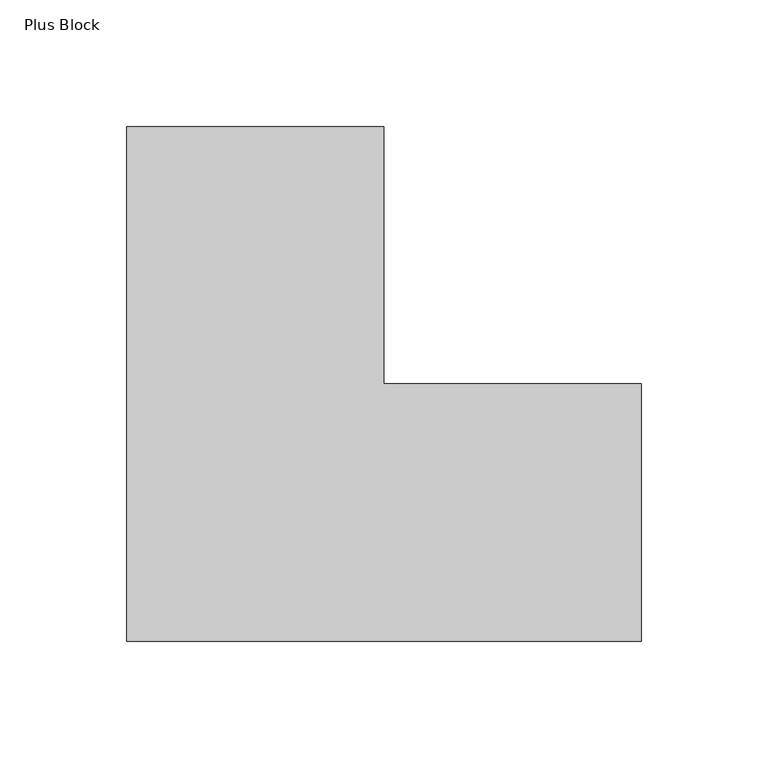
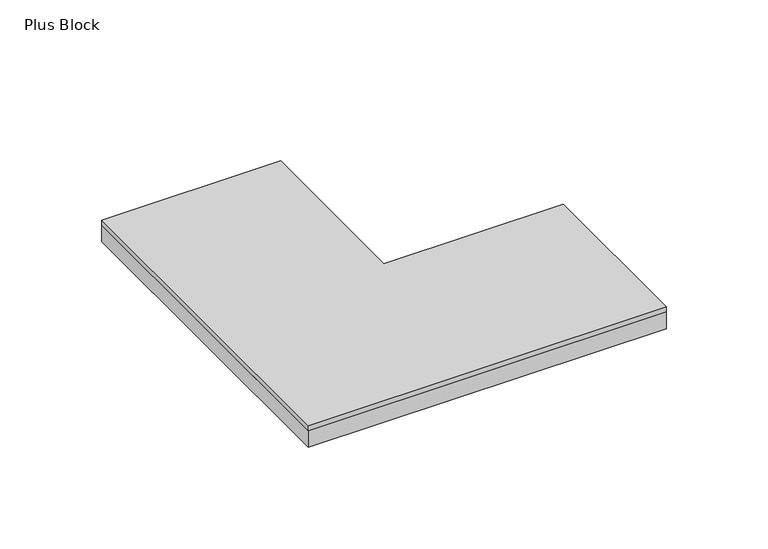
"""IFC4 building model written with IfcOpenShell, lengths in millimetres: proxy geometry, FilzFelt_Plus_Block : Plus Block."""

from ifc_helpers import new_model, si_unit, frame, origin, origin_with_axes, place, context, project, spatial, polyline, outline, extrude, source, transform, mapped, element, save


def plus_block_4f07b3c1(model_context):
    return source(origin(), model_context, "Body", "SweptSolid", [
        extrude(outline(polyline([(50.8333333, 50.8333333), (152.5, 50.8333333), (152.5, -50.8333333), (-50.8333333, -50.8333333), (-50.8333333, 152.5), (50.8333333, 152.5), (50.8333333, 50.8333333)])), frame((0.0, 0.0, 10.0210937), z_axis=(0.0, 0.0, 1.0), x_axis=(1.0, 0.0, 0.0)), (0.0, 0.0, 1.0), 2.9765625),
        extrude(outline(polyline([(-50.8333333, 152.5), (50.8333333, 152.5), (50.8333333, 50.8333333), (152.5, 50.8333333), (152.5, -50.8333333), (-50.8333333, -50.8333333), (-50.8333333, 152.5)])), origin_with_axes(), (0.0, 0.0, 1.0), 10.0210938),
    ])


if __name__ == "__main__":
    model = new_model("IFC4")
    model_context = context("Model", 3, world=origin())
    ifc_project = project(units=[si_unit("LENGTHUNIT", "METRE", prefix="MILLI")], contexts=[model_context])
    site = spatial("IfcSite", under=ifc_project)
    building = spatial("IfcBuilding", under=site)
    placement = place(None, origin())
    plus_block_shape = plus_block_4f07b3c1(model_context)
    element("IfcBuildingElementProxy", 1, Name="FilzFelt_Plus_Block : Plus Block", ObjectType="FilzFelt_Plus_Block : Plus Block", at=placement, inside=building, context=model_context, shape_type="MappedRepresentation", body=[
        mapped(plus_block_shape, transform((0.0, 0.0, 0.0), x_axis=(1.0, 0.0, 0.0), y_axis=(0.0, 1.0, 0.0), z_axis=(0.0, 0.0, 1.0))),
    ])
    save(model, "model.ifc")
